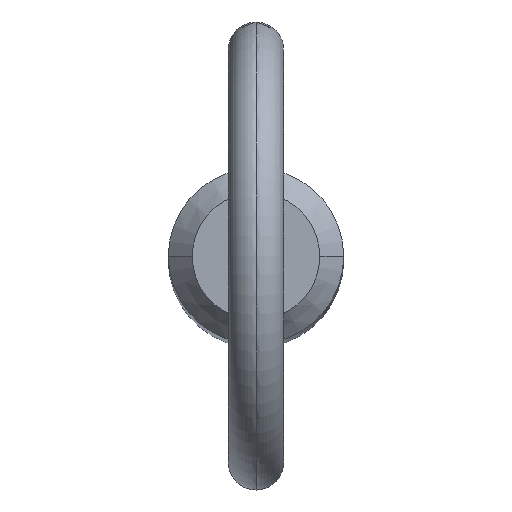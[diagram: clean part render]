
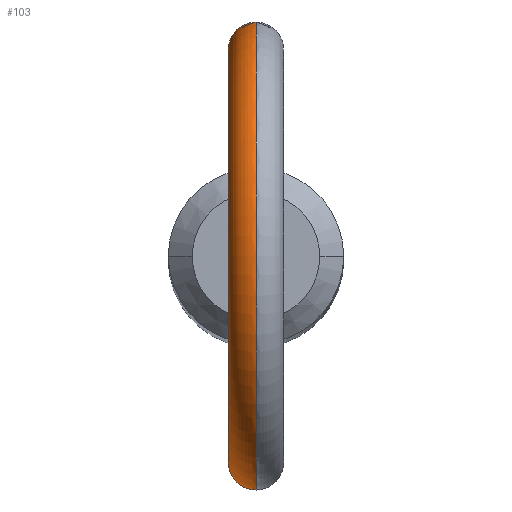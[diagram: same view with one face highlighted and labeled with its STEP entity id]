
A CAD part, top view. The second image highlights one B-rep face of the part: STEP entity #103.
In plain terms, the highlighted toroidal (fillet/blend) face has major radius 11.2 mm and minor radius 1.5 mm.
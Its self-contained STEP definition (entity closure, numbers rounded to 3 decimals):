
#32 = CARTESIAN_POINT ( 'NONE',  ( -0.703, -4.709, 105.189 ) ) ;
#36 = CARTESIAN_POINT ( 'NONE',  ( -1.487, -4.522, 106.853 ) ) ;
#48 = ORIENTED_EDGE ( 'NONE', *, *, #468, .F. ) ;
#49 = DIRECTION ( 'NONE',  ( 1., 0., 0. ) ) ;
#68 = CARTESIAN_POINT ( 'NONE',  ( -1.441, -4.537, 107.057 ) ) ;
#73 = CARTESIAN_POINT ( 'NONE',  ( -0.103, -4.76, 108.348 ) ) ;
#82 = CARTESIAN_POINT ( 'NONE',  ( -1.319, 4.581, 107.463 ) ) ;
#83 = CARTESIAN_POINT ( 'NONE',  ( 0., 0., 116.8 ) ) ;
#91 = CARTESIAN_POINT ( 'NONE',  ( -1.483, 4.524, 106.226 ) ) ;
#93 = VERTEX_POINT ( 'NONE', #464 ) ;
#94 = CARTESIAN_POINT ( 'NONE',  ( -0.209, 4.756, 108.333 ) ) ;
#98 = EDGE_CURVE ( 'NONE', #188, #352, #486, .T. ) ;
#99 = CARTESIAN_POINT ( 'NONE',  ( 0., 4.76, 105.026 ) ) ;
#103 = ADVANCED_FACE ( 'NONE', ( #360 ), #433, .T. ) ;
#112 = CARTESIAN_POINT ( 'NONE',  ( -1.292, -4.582, 107.445 ) ) ;
#115 = CARTESIAN_POINT ( 'NONE',  ( 0., -4.76, 108.348 ) ) ;
#132 = CARTESIAN_POINT ( 'NONE',  ( -0.104, 4.76, 108.348 ) ) ;
#143 = CARTESIAN_POINT ( 'NONE',  ( -1.239, 4.596, 105.659 ) ) ;
#144 = ORIENTED_EDGE ( 'NONE', *, *, #450, .F. ) ;
#160 = VERTEX_POINT ( 'NONE', #377 ) ;
#164 = CARTESIAN_POINT ( 'NONE',  ( -0.793, -4.694, 105.239 ) ) ;
#167 = EDGE_LOOP ( 'NONE', ( #144, #48, #253, #205 ) ) ;
#174 = CARTESIAN_POINT ( 'NONE',  ( -0.777, 4.7, 108.084 ) ) ;
#175 = DIRECTION ( 'NONE',  ( 0., 0., -1. ) ) ;
#178 = DIRECTION ( 'NONE',  ( 1., 0., 0. ) ) ;
#187 = CARTESIAN_POINT ( 'NONE',  ( -0.209, 4.756, 105.036 ) ) ;
#188 = VERTEX_POINT ( 'NONE', #225 ) ;
#203 = B_SPLINE_CURVE_WITH_KNOTS ( 'NONE', 3,
 ( #345, #132, #94, #460, #427, #174, #495, #82, #302, #341, #91, #383, #419, #143, #215, #257, #295, #337, #261, #376, #351, #187, #515, #99 ),
 .UNSPECIFIED., .F., .F.,
 ( 4, 2, 2, 2, 2, 2, 2, 2, 2, 2, 2, 4 ),
 ( 0.006, 0.006, 0.006, 0.007, 0.008, 0.009, 0.009, 0.009, 0.01, 0.01, 0.01, 0.011 ),
 .UNSPECIFIED. ) ;
#205 = ORIENTED_EDGE ( 'NONE', *, *, #366, .F. ) ;
#207 = CARTESIAN_POINT ( 'NONE',  ( -0.777, -4.7, 108.085 ) ) ;
#215 = CARTESIAN_POINT ( 'NONE',  ( -1.178, 4.612, 105.577 ) ) ;
#220 = CARTESIAN_POINT ( 'NONE',  ( 0., 0., 116.8 ) ) ;
#225 = CARTESIAN_POINT ( 'NONE',  ( 0., 4.76, 108.348 ) ) ;
#231 = CARTESIAN_POINT ( 'NONE',  ( -0.21, -4.76, 105.026 ) ) ;
#247 = CARTESIAN_POINT ( 'NONE',  ( -1.353, -4.564, 105.835 ) ) ;
#253 = ORIENTED_EDGE ( 'NONE', *, *, #98, .T. ) ;
#257 = CARTESIAN_POINT ( 'NONE',  ( -1.039, 4.646, 105.426 ) ) ;
#261 = CARTESIAN_POINT ( 'NONE',  ( -0.702, 4.709, 105.189 ) ) ;
#270 = CARTESIAN_POINT ( 'NONE',  ( 0., -4.76, 108.348 ) ) ;
#282 = CARTESIAN_POINT ( 'NONE',  ( -0.208, -4.757, 108.334 ) ) ;
#285 = CARTESIAN_POINT ( 'NONE',  ( -1.039, -4.646, 105.426 ) ) ;
#289 = AXIS2_PLACEMENT_3D ( 'NONE', #466, #49, #500 ) ;
#292 = AXIS2_PLACEMENT_3D ( 'NONE', #83, #178, #342 ) ;
#295 = CARTESIAN_POINT ( 'NONE',  ( -0.96, 4.663, 105.357 ) ) ;
#302 = CARTESIAN_POINT ( 'NONE',  ( -1.477, 4.525, 107.055 ) ) ;
#324 = CARTESIAN_POINT ( 'NONE',  ( -1.483, -4.524, 106.226 ) ) ;
#329 = CARTESIAN_POINT ( 'NONE',  ( -0.409, -4.743, 108.278 ) ) ;
#337 = CARTESIAN_POINT ( 'NONE',  ( -0.792, 4.694, 105.239 ) ) ;
#341 = CARTESIAN_POINT ( 'NONE',  ( -1.508, 4.515, 106.438 ) ) ;
#342 = DIRECTION ( 'NONE',  ( 0., 0., -1. ) ) ;
#345 = CARTESIAN_POINT ( 'NONE',  ( 0., 4.76, 108.348 ) ) ;
#350 = AXIS2_PLACEMENT_3D ( 'NONE', #220, #380, #175 ) ;
#351 = CARTESIAN_POINT ( 'NONE',  ( -0.411, 4.743, 105.077 ) ) ;
#352 = VERTEX_POINT ( 'NONE', #270 ) ;
#360 = FACE_OUTER_BOUND ( 'NONE', #167, .T. ) ;
#366 = EDGE_CURVE ( 'NONE', #93, #352, #484, .T. ) ;
#376 = CARTESIAN_POINT ( 'NONE',  ( -0.51, 4.734, 105.107 ) ) ;
#377 = CARTESIAN_POINT ( 'NONE',  ( 0., 4.76, 105.026 ) ) ;
#380 = DIRECTION ( 'NONE',  ( 1., 0., 0. ) ) ;
#383 = CARTESIAN_POINT ( 'NONE',  ( -1.386, 4.554, 105.933 ) ) ;
#399 = CARTESIAN_POINT ( 'NONE',  ( -1.19, -4.611, 107.624 ) ) ;
#405 = CARTESIAN_POINT ( 'NONE',  ( -0.416, -4.746, 105.067 ) ) ;
#419 = CARTESIAN_POINT ( 'NONE',  ( -1.343, 4.567, 105.838 ) ) ;
#427 = CARTESIAN_POINT ( 'NONE',  ( -0.506, 4.734, 108.237 ) ) ;
#433 = TOROIDAL_SURFACE ( 'NONE', #350, 11.2, 1.5 ) ;
#449 = CARTESIAN_POINT ( 'NONE',  ( -0.504, -4.734, 108.238 ) ) ;
#450 = EDGE_CURVE ( 'NONE', #160, #93, #473, .T. ) ;
#460 = CARTESIAN_POINT ( 'NONE',  ( -0.409, 4.743, 108.278 ) ) ;
#464 = CARTESIAN_POINT ( 'NONE',  ( 0., -4.76, 105.026 ) ) ;
#466 = CARTESIAN_POINT ( 'NONE',  ( 0., 0., 116.8 ) ) ;
#467 = CARTESIAN_POINT ( 'NONE',  ( 0., -4.76, 105.026 ) ) ;
#468 = EDGE_CURVE ( 'NONE', #188, #160, #203, .T. ) ;
#473 = CIRCLE ( 'NONE', #289, 12.7 ) ;
#481 = CARTESIAN_POINT ( 'NONE',  ( -0.932, -4.67, 107.945 ) ) ;
#484 = B_SPLINE_CURVE_WITH_KNOTS ( 'NONE', 3,
 ( #467, #231, #405, #32, #164, #488, #285, #522, #247, #324, #525, #36, #68, #112, #399, #481, #207, #449, #329, #282, #73, #115 ),
 .UNSPECIFIED., .F., .F.,
 ( 4, 2, 2, 2, 2, 2, 2, 2, 2, 2, 4 ),
 ( 0.009, 0.01, 0.01, 0.011, 0.011, 0.012, 0.012, 0.013, 0.014, 0.014, 0.014 ),
 .UNSPECIFIED. ) ;
#486 = CIRCLE ( 'NONE', #292, 9.7 ) ;
#488 = CARTESIAN_POINT ( 'NONE',  ( -0.961, -4.663, 105.357 ) ) ;
#495 = CARTESIAN_POINT ( 'NONE',  ( -0.933, 4.669, 107.943 ) ) ;
#500 = DIRECTION ( 'NONE',  ( 0., 0., -1. ) ) ;
#515 = CARTESIAN_POINT ( 'NONE',  ( -0.104, 4.76, 105.026 ) ) ;
#522 = CARTESIAN_POINT ( 'NONE',  ( -1.247, -4.596, 105.652 ) ) ;
#525 = CARTESIAN_POINT ( 'NONE',  ( -1.508, -4.515, 106.437 ) ) ;
